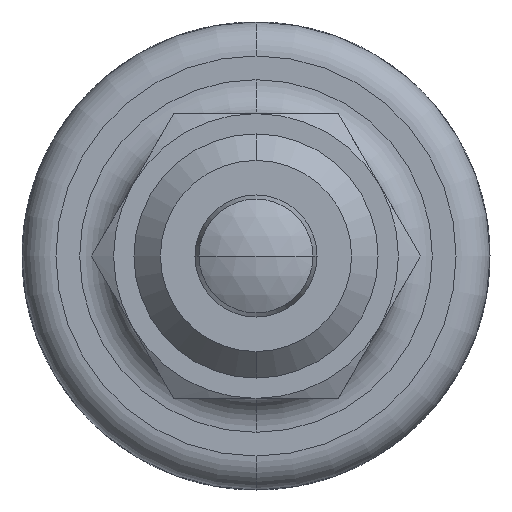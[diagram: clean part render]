
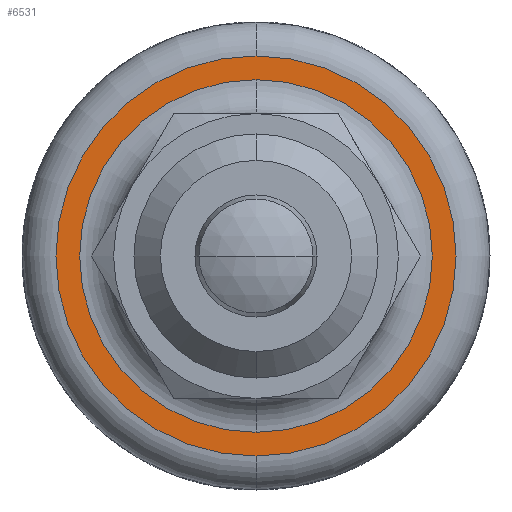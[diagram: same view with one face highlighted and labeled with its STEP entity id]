
A CAD part, front view. The second image highlights one B-rep face of the part: STEP entity #6531.
In plain terms, the highlighted planar face has unit normal (0, -1, 0).
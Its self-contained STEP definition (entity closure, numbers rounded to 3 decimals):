
#539 = CARTESIAN_POINT ( 'NONE',  ( 0., 13.333, 0. ) ) ;
#540 = AXIS2_PLACEMENT_3D ( 'NONE', #539, #601, #600 ) ;
#541 = CIRCLE ( 'NONE', #540, 8.667 ) ;
#595 = DIRECTION ( 'NONE',  ( 0., 0., 1. ) ) ;
#596 = DIRECTION ( 'NONE',  ( 0., -1., 0. ) ) ;
#597 = CARTESIAN_POINT ( 'NONE',  ( 0., 13.333, 0. ) ) ;
#598 = AXIS2_PLACEMENT_3D ( 'NONE', #597, #596, #595 ) ;
#599 = CIRCLE ( 'NONE', #598, 9.833 ) ;
#600 = DIRECTION ( 'NONE',  ( 0., 0., 1. ) ) ;
#601 = DIRECTION ( 'NONE',  ( 0., 1., 0. ) ) ;
#749 = DIRECTION ( 'NONE',  ( 0., 0., 1. ) ) ;
#750 = DIRECTION ( 'NONE',  ( 0., 1., 0. ) ) ;
#751 = CARTESIAN_POINT ( 'NONE',  ( 0., 13.333, 0. ) ) ;
#752 = AXIS2_PLACEMENT_3D ( 'NONE', #751, #750, #749 ) ;
#753 = PLANE ( 'NONE',  #752 ) ;
#754 = FACE_OUTER_BOUND ( 'NONE', #6449, .T. ) ;
#755 = FACE_BOUND ( 'NONE', #6532, .T. ) ;
#1757 = CARTESIAN_POINT ( 'NONE',  ( 0., 13.333, 8.667 ) ) ;
#1758 = CARTESIAN_POINT ( 'NONE',  ( 0., 13.333, -8.667 ) ) ;
#1759 = DIRECTION ( 'NONE',  ( 0., 0., 1. ) ) ;
#1760 = DIRECTION ( 'NONE',  ( 0., 1., 0. ) ) ;
#1761 = CARTESIAN_POINT ( 'NONE',  ( 0., 13.333, 0. ) ) ;
#1762 = AXIS2_PLACEMENT_3D ( 'NONE', #1761, #1760, #1759 ) ;
#1768 = CIRCLE ( 'NONE', #1762, 8.667 ) ;
#1846 = CARTESIAN_POINT ( 'NONE',  ( 0., 13.333, 9.833 ) ) ;
#1847 = CARTESIAN_POINT ( 'NONE',  ( 0., 13.333, -9.833 ) ) ;
#1848 = DIRECTION ( 'NONE',  ( 0., 0., 1. ) ) ;
#1849 = DIRECTION ( 'NONE',  ( 0., -1., 0. ) ) ;
#1850 = CARTESIAN_POINT ( 'NONE',  ( 0., 13.333, 0. ) ) ;
#1851 = AXIS2_PLACEMENT_3D ( 'NONE', #1850, #1849, #1848 ) ;
#1852 = CIRCLE ( 'NONE', #1851, 9.833 ) ;
#6447 = EDGE_CURVE ( 'NONE', #7192, #7191, #541, .T. ) ;
#6448 = ORIENTED_EDGE ( 'NONE', *, *, #7190, .T. ) ;
#6449 = EDGE_LOOP ( 'NONE', ( #6450, #6452 ) ) ;
#6450 = ORIENTED_EDGE ( 'NONE', *, *, #6451, .T. ) ;
#6451 = EDGE_CURVE ( 'NONE', #7237, #7236, #599, .T. ) ;
#6452 = ORIENTED_EDGE ( 'NONE', *, *, #7235, .T. ) ;
#6531 = ADVANCED_FACE ( 'NONE', ( #755, #754 ), #753, .F. ) ;
#6532 = EDGE_LOOP ( 'NONE', ( #6533, #6448 ) ) ;
#6533 = ORIENTED_EDGE ( 'NONE', *, *, #6447, .T. ) ;
#7190 = EDGE_CURVE ( 'NONE', #7191, #7192, #1768, .T. ) ;
#7191 = VERTEX_POINT ( 'NONE', #1758 ) ;
#7192 = VERTEX_POINT ( 'NONE', #1757 ) ;
#7235 = EDGE_CURVE ( 'NONE', #7236, #7237, #1852, .T. ) ;
#7236 = VERTEX_POINT ( 'NONE', #1847 ) ;
#7237 = VERTEX_POINT ( 'NONE', #1846 ) ;
